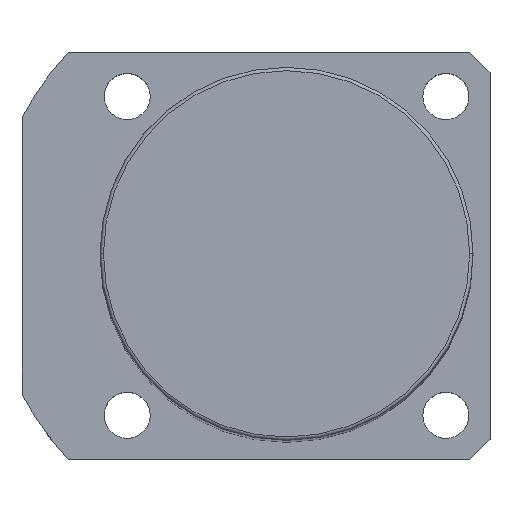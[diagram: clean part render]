
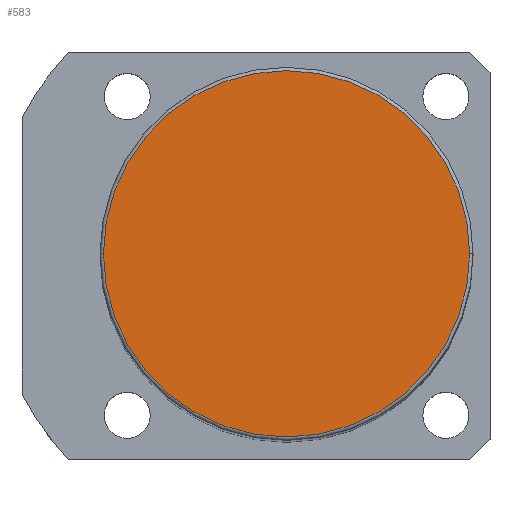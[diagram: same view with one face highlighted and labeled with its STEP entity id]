
A CAD part, top view. The second image highlights one B-rep face of the part: STEP entity #583.
In plain terms, the highlighted planar face has unit normal (0, 0, 1).
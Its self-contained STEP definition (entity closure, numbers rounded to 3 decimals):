
#60 = CARTESIAN_POINT ( 'NONE',  ( 27., 0., 181. ) ) ;
#68 = DIRECTION ( 'NONE',  ( 0., 0., 1. ) ) ;
#101 = FACE_OUTER_BOUND ( 'NONE', #939, .T. ) ;
#220 = DIRECTION ( 'NONE',  ( 1., 0., 0. ) ) ;
#226 = CARTESIAN_POINT ( 'NONE',  ( 0., 0., 181. ) ) ;
#260 = AXIS2_PLACEMENT_3D ( 'NONE', #717, #1714, #1596 ) ;
#583 = ADVANCED_FACE ( 'NONE', ( #101 ), #1484, .T. ) ;
#600 = VERTEX_POINT ( 'NONE', #1771 ) ;
#642 = AXIS2_PLACEMENT_3D ( 'NONE', #226, #1469, #1331 ) ;
#694 = AXIS2_PLACEMENT_3D ( 'NONE', #1314, #68, #220 ) ;
#717 = CARTESIAN_POINT ( 'NONE',  ( 0., 0., 181. ) ) ;
#744 = CIRCLE ( 'NONE', #694, 27. ) ;
#939 = EDGE_LOOP ( 'NONE', ( #1353, #1009 ) ) ;
#1009 = ORIENTED_EDGE ( 'NONE', *, *, #1797, .T. ) ;
#1314 = CARTESIAN_POINT ( 'NONE',  ( 0., 0., 181. ) ) ;
#1331 = DIRECTION ( 'NONE',  ( 1., 0., 0. ) ) ;
#1353 = ORIENTED_EDGE ( 'NONE', *, *, #1403, .T. ) ;
#1362 = CIRCLE ( 'NONE', #260, 27. ) ;
#1403 = EDGE_CURVE ( 'NONE', #1535, #600, #1362, .T. ) ;
#1469 = DIRECTION ( 'NONE',  ( 0., 0., 1. ) ) ;
#1484 = PLANE ( 'NONE',  #642 ) ;
#1535 = VERTEX_POINT ( 'NONE', #60 ) ;
#1596 = DIRECTION ( 'NONE',  ( 1., 0., 0. ) ) ;
#1714 = DIRECTION ( 'NONE',  ( 0., 0., 1. ) ) ;
#1771 = CARTESIAN_POINT ( 'NONE',  ( -27., 0., 181. ) ) ;
#1797 = EDGE_CURVE ( 'NONE', #600, #1535, #744, .T. ) ;
